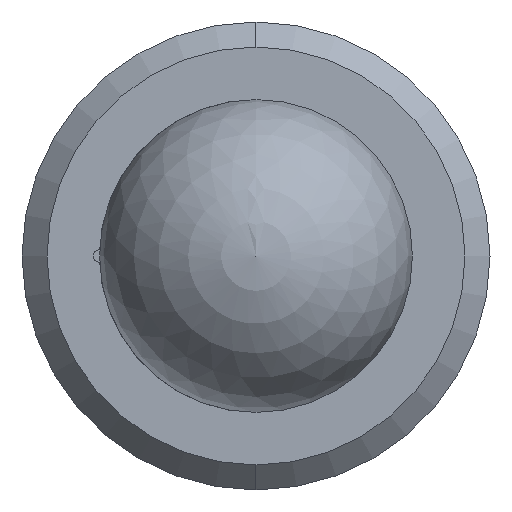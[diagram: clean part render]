
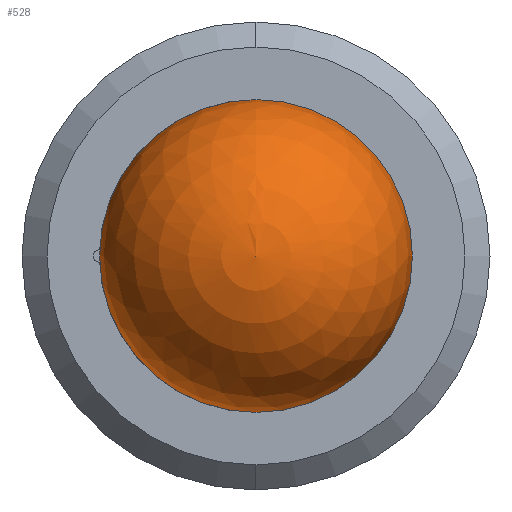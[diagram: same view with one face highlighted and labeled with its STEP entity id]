
A CAD part, left-side view. The second image highlights one B-rep face of the part: STEP entity #528.
In plain terms, the highlighted spherical face has radius 1.587 mm.
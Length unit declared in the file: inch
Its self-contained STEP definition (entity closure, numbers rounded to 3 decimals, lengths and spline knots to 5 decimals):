
#35 = CARTESIAN_POINT ( 'NONE',  ( 0., 0.0625, 0. ) ) ;
#59 = ORIENTED_EDGE ( 'NONE', *, *, #622, .T. ) ;
#129 = DIRECTION ( 'NONE',  ( 1., 0., 0. ) ) ;
#264 = DIRECTION ( 'NONE',  ( -1., 0., 0. ) ) ;
#298 = DIRECTION ( 'NONE',  ( -1., 0., 0. ) ) ;
#339 = AXIS2_PLACEMENT_3D ( 'NONE', #670, #298, #728 ) ;
#348 = AXIS2_PLACEMENT_3D ( 'NONE', #480, #129, #542 ) ;
#407 = AXIS2_PLACEMENT_3D ( 'NONE', #641, #264, #695 ) ;
#480 = CARTESIAN_POINT ( 'NONE',  ( 0., 0., 0. ) ) ;
#501 = VERTEX_POINT ( 'NONE', #519 ) ;
#502 = ORIENTED_EDGE ( 'NONE', *, *, #591, .F. ) ;
#519 = CARTESIAN_POINT ( 'NONE',  ( 0., -0.0625, 0. ) ) ;
#528 = ADVANCED_FACE ( 'NONE', ( #757 ), #577, .T. ) ;
#542 = DIRECTION ( 'NONE',  ( 0., 0., -1. ) ) ;
#557 = EDGE_LOOP ( 'NONE', ( #502, #59 ) ) ;
#577 = SPHERICAL_SURFACE ( 'NONE', #407, 0.0625 ) ;
#591 = EDGE_CURVE ( 'NONE', #696, #501, #619, .T. ) ;
#619 = CIRCLE ( 'NONE', #348, 0.0625 ) ;
#622 = EDGE_CURVE ( 'NONE', #696, #501, #719, .T. ) ;
#641 = CARTESIAN_POINT ( 'NONE',  ( 0., 0., 0. ) ) ;
#670 = CARTESIAN_POINT ( 'NONE',  ( 0., 0., 0. ) ) ;
#695 = DIRECTION ( 'NONE',  ( 0., 0., 1. ) ) ;
#696 = VERTEX_POINT ( 'NONE', #35 ) ;
#719 = CIRCLE ( 'NONE', #339, 0.0625 ) ;
#728 = DIRECTION ( 'NONE',  ( 0., 0., 1. ) ) ;
#757 = FACE_OUTER_BOUND ( 'NONE', #557, .T. ) ;
